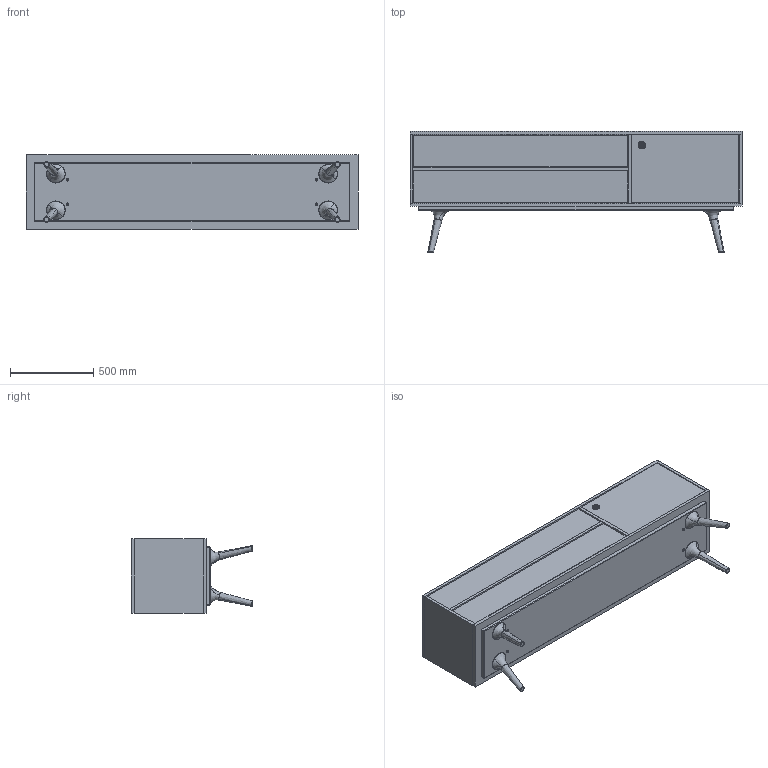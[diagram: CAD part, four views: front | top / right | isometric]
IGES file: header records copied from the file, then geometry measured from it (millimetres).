
Start section: SolidWorks IGES file using analytic representation for surfaces
Global section: file name: P:\Corporate Identity\4_Product_Content\2d3ddag_2014\Zio Buffet\3D\Zio Buffet.IGS; native system: SolidWorks 2014; preprocessor: SolidWorks 2014; author: wybrand; date: 140827.104647; units: millimetre
Bounding box: 2000 x 729 x 450 mm (x, y, z)
Surface area: 10641902.6 mm2 (no closed solid volume)
Topology: 0 solids, 0 shells, 1185 faces, 14454 edges, 14446 vertices
Faces by surface type: bspline 1003, revolution 182
